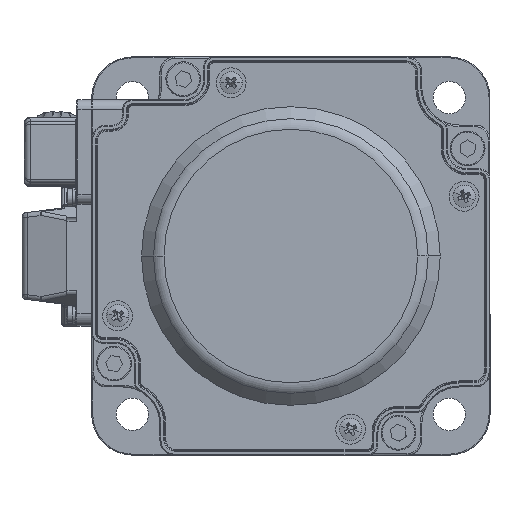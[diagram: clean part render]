
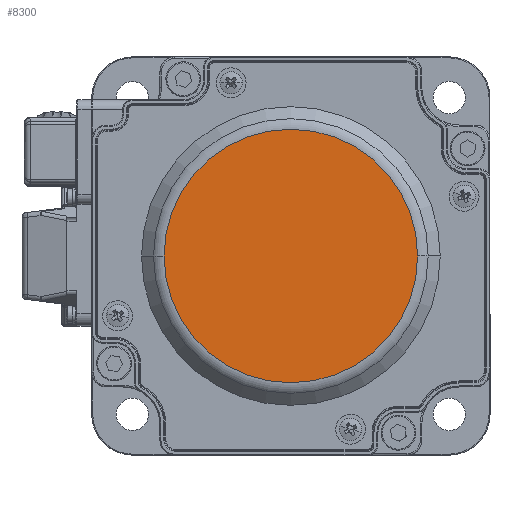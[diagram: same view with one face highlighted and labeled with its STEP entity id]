
A CAD part, left-side view. The second image highlights one B-rep face of the part: STEP entity #8300.
In plain terms, the highlighted planar face has unit normal (-1, 0, 0).
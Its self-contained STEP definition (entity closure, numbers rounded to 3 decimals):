
#3721 = CARTESIAN_POINT ( 'NONE',  ( -74.7, 0., 0. ) ) ;
#8300 = ADVANCED_FACE ( 'NONE', ( #33993 ), #28582, .F. ) ;
#9329 = VERTEX_POINT ( 'NONE', #44558 ) ;
#10049 = CARTESIAN_POINT ( 'NONE',  ( -74.7, 0., 0. ) ) ;
#11706 = CIRCLE ( 'NONE', #22091, 25.457 ) ;
#18862 = AXIS2_PLACEMENT_3D ( 'NONE', #10049, #59626, #53912 ) ;
#22091 = AXIS2_PLACEMENT_3D ( 'NONE', #67519, #24533, #36358 ) ;
#22640 = ORIENTED_EDGE ( 'NONE', *, *, #49196, .T. ) ;
#24533 = DIRECTION ( 'NONE',  ( -1., 0., 0. ) ) ;
#28021 = VERTEX_POINT ( 'NONE', #31385 ) ;
#28582 = PLANE ( 'NONE',  #18862 ) ;
#31385 = CARTESIAN_POINT ( 'NONE',  ( -74.7, 25.457, 0. ) ) ;
#31417 = DIRECTION ( 'NONE',  ( -1., 0., 0. ) ) ;
#33578 = AXIS2_PLACEMENT_3D ( 'NONE', #3721, #31417, #54001 ) ;
#33993 = FACE_OUTER_BOUND ( 'NONE', #58448, .T. ) ;
#36358 = DIRECTION ( 'NONE',  ( 0., 1., 0. ) ) ;
#44558 = CARTESIAN_POINT ( 'NONE',  ( -74.7, -25.457, 0. ) ) ;
#46158 = CIRCLE ( 'NONE', #33578, 25.457 ) ;
#46245 = ORIENTED_EDGE ( 'NONE', *, *, #48310, .T. ) ;
#48310 = EDGE_CURVE ( 'NONE', #28021, #9329, #46158, .T. ) ;
#49196 = EDGE_CURVE ( 'NONE', #9329, #28021, #11706, .T. ) ;
#53912 = DIRECTION ( 'NONE',  ( 0., 1., 0. ) ) ;
#54001 = DIRECTION ( 'NONE',  ( 0., 1., 0. ) ) ;
#58448 = EDGE_LOOP ( 'NONE', ( #46245, #22640 ) ) ;
#59626 = DIRECTION ( 'NONE',  ( 1., 0., 0. ) ) ;
#67519 = CARTESIAN_POINT ( 'NONE',  ( -74.7, 0., 0. ) ) ;
